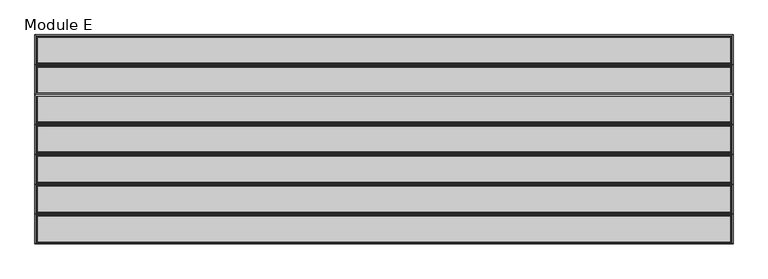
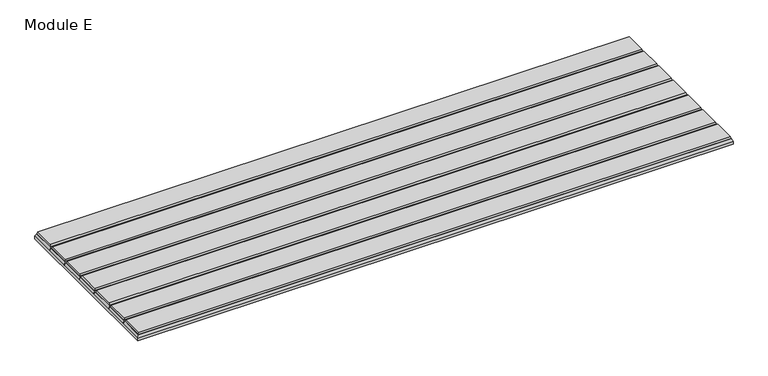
"""IFC4 building model written with IfcOpenShell, lengths in millimetres: proxy geometry, FilzFelt_Gap : Module E."""

from ifc_helpers import new_model, si_unit, origin, place, context, project, spatial, faceted_brep, source, transform, mapped, element, save


def module_e_592a369e(model_context):
    return source(origin(), model_context, "Body", "Brep", [
        faceted_brep([(-506.095, 110.7621429, 9.525), (506.095, 110.7621429, 9.525), (506.095, 150.495, 9.525), (-506.095, 150.495, 9.525), (506.095, -110.7621429, 9.525), (-506.095, -110.7621429, 9.525), (-506.095, -150.495, 9.525), (506.095, -150.495, 9.525), (-506.095, 67.2192857, 9.525), (506.095, 67.2192857, 9.525), (506.095, 106.9521429, 9.525), (-506.095, 106.9521429, 9.525), (-506.095, 23.6764286, 9.525), (506.095, 23.6764286, 9.525), (506.095, 63.4092857, 9.525), (-506.095, 63.4092857, 9.525), (-506.095, -19.8664286, 9.525), (506.095, -19.8664286, 9.525), (506.095, 19.8664286, 9.525), (-506.095, 19.8664286, 9.525), (-506.095, -63.4092857, 9.525), (506.095, -63.4092857, 9.525), (506.095, -23.6764286, 9.525), (-506.095, -23.6764286, 9.525), (-506.095, -106.9521429, 9.525), (506.095, -106.9521429, 9.525), (506.095, -67.2192857, 9.525), (-506.095, -67.2192857, 9.525), (508.0, 152.4, 0.0), (508.0, -152.4, 0.0), (-508.0, -152.4, 0.0), (-508.0, 152.4, 0.0), (-508.0, 152.4, 4.7625), (508.0, 152.4, 4.7625), (-508.0, -152.4, 4.7625), (-508.0, -108.8571429, 4.7625), (-508.0, -65.3142857, 4.7625), (-508.0, -21.7714286, 4.7625), (-508.0, 21.7714286, 4.7625), (-508.0, 65.3142857, 4.7625), (-508.0, 108.8571429, 4.7625), (508.0, -152.4, 4.7625), (508.0, 108.8571429, 4.7625), (508.0, 65.3142857, 4.7625), (508.0, 21.7714286, 4.7625), (508.0, -21.7714286, 4.7625), (508.0, -65.3142857, 4.7625), (508.0, -108.8571429, 4.7625)], [[[0, 1, 2, 3]], [[4, 5, 6, 7]], [[8, 9, 10, 11]], [[12, 13, 14, 15]], [[16, 17, 18, 19]], [[20, 21, 22, 23]], [[24, 25, 26, 27]], [[28, 29, 30, 31]], [[28, 31, 32, 33]], [[31, 30, 34, 35, 36, 37, 38, 39, 40, 32]], [[30, 29, 41, 34]], [[29, 28, 33, 42, 43, 44, 45, 46, 47, 41]], [[10, 9, 43, 42]], [[14, 13, 44, 43]], [[18, 17, 45, 44]], [[22, 21, 46, 45]], [[26, 25, 47, 46]], [[7, 41, 47, 4]], [[33, 2, 1, 42]], [[41, 7, 6, 34]], [[8, 11, 40, 39]], [[12, 15, 39, 38]], [[16, 19, 38, 37]], [[20, 23, 37, 36]], [[24, 27, 36, 35]], [[34, 6, 5, 35]], [[3, 32, 40, 0]], [[32, 3, 2, 33]], [[42, 40, 11, 10]], [[40, 42, 1, 0]], [[43, 39, 15, 14]], [[39, 43, 9, 8]], [[44, 38, 19, 18]], [[38, 44, 13, 12]], [[45, 37, 23, 22]], [[37, 45, 17, 16]], [[46, 36, 27, 26]], [[36, 46, 21, 20]], [[47, 35, 5, 4]], [[35, 47, 25, 24]]]),
        faceted_brep([(-506.095, -110.7621429, 9.525), (506.095, -110.7621429, 9.525), (506.095, -150.495, 9.525), (-506.095, -150.495, 9.525), (504.825, -112.0321429, 12.7), (-504.825, -112.0321429, 12.7), (-504.825, -149.225, 12.7), (504.825, -149.225, 12.7)], [[[0, 1, 2, 3]], [[4, 5, 6, 7]], [[7, 2, 1, 4]], [[2, 7, 6, 3]], [[3, 6, 5, 0]], [[1, 0, 5, 4]]]),
        faceted_brep([(506.095, 110.7621429, 9.525), (-506.095, 110.7621429, 9.525), (-506.095, 150.495, 9.525), (506.095, 150.495, 9.525), (-504.825, 112.0321429, 12.7), (504.825, 112.0321429, 12.7), (504.825, 149.225, 12.7), (-504.825, 149.225, 12.7)], [[[0, 1, 2, 3]], [[4, 5, 6, 7]], [[3, 6, 5, 0]], [[7, 2, 1, 4]], [[2, 7, 6, 3]], [[1, 0, 5, 4]]]),
        faceted_brep([(506.095, 67.2192857, 9.525), (-506.095, 67.2192857, 9.525), (-506.095, 106.9521429, 9.525), (506.095, 106.9521429, 9.525), (-504.825, 68.4892857, 12.7), (504.825, 68.4892857, 12.7), (504.825, 105.6821429, 12.7), (-504.825, 105.6821429, 12.7)], [[[0, 1, 2, 3]], [[4, 5, 6, 7]], [[0, 3, 6, 5]], [[2, 1, 4, 7]], [[3, 2, 7, 6]], [[1, 0, 5, 4]]]),
        faceted_brep([(506.095, 23.6764286, 9.525), (-506.095, 23.6764286, 9.525), (-506.095, 63.4092857, 9.525), (506.095, 63.4092857, 9.525), (-504.825, 24.9464286, 12.7), (504.825, 24.9464286, 12.7), (504.825, 62.1392857, 12.7), (-504.825, 62.1392857, 12.7)], [[[0, 1, 2, 3]], [[4, 5, 6, 7]], [[0, 3, 6, 5]], [[2, 1, 4, 7]], [[3, 2, 7, 6]], [[1, 0, 5, 4]]]),
        faceted_brep([(506.095, -19.8664286, 9.525), (-506.095, -19.8664286, 9.525), (-506.095, 19.8664286, 9.525), (506.095, 19.8664286, 9.525), (-504.825, -18.5964286, 12.7), (504.825, -18.5964286, 12.7), (504.825, 18.5964286, 12.7), (-504.825, 18.5964286, 12.7)], [[[0, 1, 2, 3]], [[4, 5, 6, 7]], [[0, 3, 6, 5]], [[2, 1, 4, 7]], [[3, 2, 7, 6]], [[1, 0, 5, 4]]]),
        faceted_brep([(506.095, -63.4092857, 9.525), (-506.095, -63.4092857, 9.525), (-506.095, -23.6764286, 9.525), (506.095, -23.6764286, 9.525), (-504.825, -62.1392857, 12.7), (504.825, -62.1392857, 12.7), (504.825, -24.9464286, 12.7), (-504.825, -24.9464286, 12.7)], [[[0, 1, 2, 3]], [[4, 5, 6, 7]], [[0, 3, 6, 5]], [[2, 1, 4, 7]], [[3, 2, 7, 6]], [[1, 0, 5, 4]]]),
        faceted_brep([(506.095, -106.9521429, 9.525), (-506.095, -106.9521429, 9.525), (-506.095, -67.2192857, 9.525), (506.095, -67.2192857, 9.525), (-504.825, -105.6821429, 12.7), (504.825, -105.6821429, 12.7), (504.825, -68.4892857, 12.7), (-504.825, -68.4892857, 12.7)], [[[0, 1, 2, 3]], [[4, 5, 6, 7]], [[0, 3, 6, 5]], [[2, 1, 4, 7]], [[3, 2, 7, 6]], [[1, 0, 5, 4]]]),
    ])


if __name__ == "__main__":
    model = new_model("IFC4")
    model_context = context("Model", 3, world=origin())
    ifc_project = project(units=[si_unit("LENGTHUNIT", "METRE", prefix="MILLI")], contexts=[model_context])
    site = spatial("IfcSite", under=ifc_project)
    building = spatial("IfcBuilding", under=site)
    placement = place(None, origin())
    module_e_shape = module_e_592a369e(model_context)
    element("IfcBuildingElementProxy", 1, Name="FilzFelt_Gap : Module E", ObjectType="FilzFelt_Gap : Module E", at=placement, inside=building, context=model_context, shape_type="MappedRepresentation", body=[
        mapped(module_e_shape, transform((0.0, 0.0, 0.0), x_axis=(1.0, 0.0, 0.0), y_axis=(0.0, 1.0, 0.0), z_axis=(0.0, 0.0, 1.0))),
    ])
    save(model, "model.ifc")
